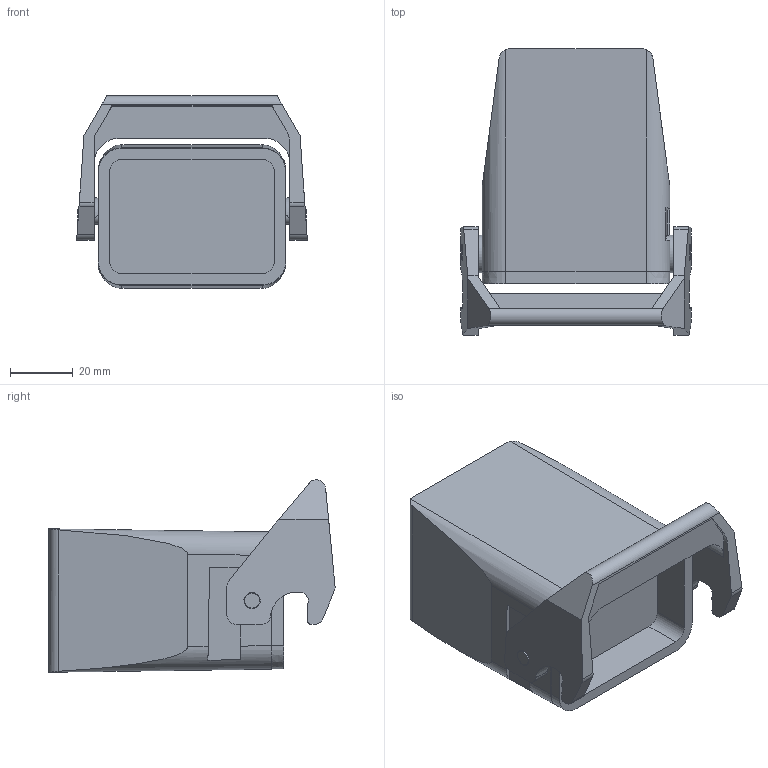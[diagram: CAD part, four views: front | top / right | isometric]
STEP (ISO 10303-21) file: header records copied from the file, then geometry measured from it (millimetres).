
FILE_DESCRIPTION(('SolidDesigner STEP Export'),'2;1');
FILE_NAME('1412555_HC_STA_B06_CHWS_1TTM20_ELC_AL-select.stp','2014-11-11T14:42:29',(''),(''),'Creo Elements/Direct Modeling STEP processor for AP214 (Solid Model)','Creo Elements/Direct Modeling 18.1B 29-Sep-2012 (C) Parametric Technology GmbH','');
FILE_SCHEMA(('AUTOMOTIVE_DESIGN { 1 0 10303 214 1 1 1 1 }'));
Length unit declared in the file: millimetre
Products named in the file (2): 1412555_HC_STA_B06_CHWS_1TTM20_ELC_AL-select
Assembly tree (1 placements, depth 2):
  1412555_HC_STA_B06_CHWS_1TTM20_ELC_AL-select
    1412555_HC_STA_B06_CHWS_1TTM20_ELC_AL-select
Bounding box: 73.7 x 91.4 x 61.51 mm (x, y, z)
Volume: 176238.7 mm3; surface area: 29419.3 mm2
Topology: 1 solids, 1 shells, 113 faces, 327 edges, 218 vertices
Faces by surface type: plane 65, cylinder 44, extrusion 4
Entity records: 4880 total; most frequent: CARTESIAN_POINT 996, ORIENTED_EDGE 654, DIRECTION 581, EDGE_CURVE 327, VERTEX_POINT 218, AXIS2_PLACEMENT_3D 194, VECTOR 193, LINE 189
